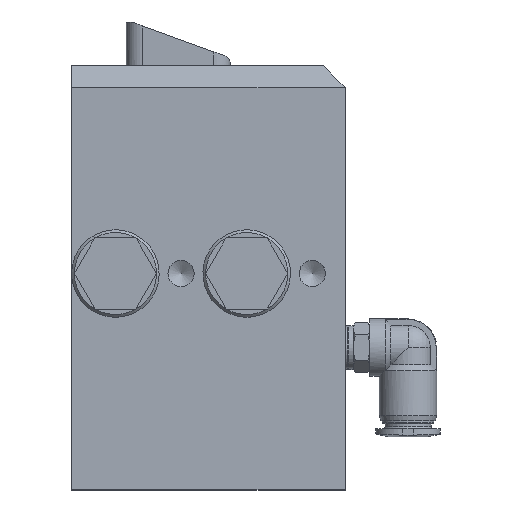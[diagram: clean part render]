
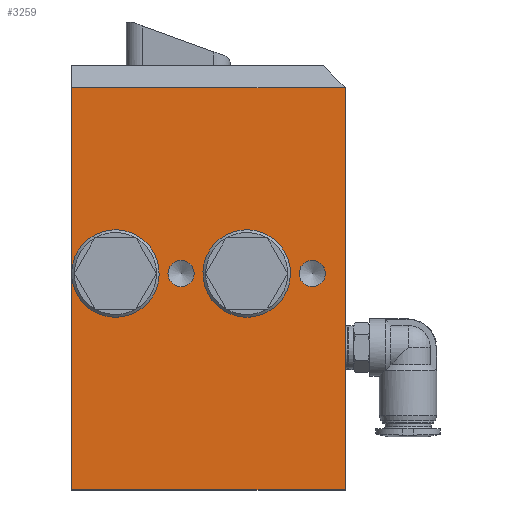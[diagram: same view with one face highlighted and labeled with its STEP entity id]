
A CAD part, top view. The second image highlights one B-rep face of the part: STEP entity #3259.
In plain terms, the highlighted planar face has unit normal (0, 0, 1).
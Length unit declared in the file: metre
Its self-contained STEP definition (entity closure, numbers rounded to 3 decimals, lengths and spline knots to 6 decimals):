
#58 = CARTESIAN_POINT ( 'NONE',  ( 0.0261, 0., 0.021 ) ) ;
#62 = EDGE_CURVE ( 'NONE', #5124, #5124, #7362, .T. ) ;
#371 = AXIS2_PLACEMENT_3D ( 'NONE', #9965, #5873, #11290 ) ;
#763 = EDGE_CURVE ( 'NONE', #9822, #12820, #1626, .T. ) ;
#995 = AXIS2_PLACEMENT_3D ( 'NONE', #11703, #11688, #11686 ) ;
#1030 = VECTOR ( 'NONE', #6518, 1. ) ;
#1626 = LINE ( 'NONE', #6575, #1030 ) ;
#1704 = ORIENTED_EDGE ( 'NONE', *, *, #763, .T. ) ;
#1993 = DIRECTION ( 'NONE',  ( 1., 0., 0. ) ) ;
#2046 = AXIS2_PLACEMENT_3D ( 'NONE', #10106, #12530, #1993 ) ;
#2714 = CARTESIAN_POINT ( 'NONE',  ( 0.0124, 0., 0.021 ) ) ;
#2860 = CIRCLE ( 'NONE', #2046, 0.0041 ) ;
#3259 = ADVANCED_FACE ( 'NONE', ( #9197, #7814, #9208, #9831, #9366 ), #16827, .F. ) ;
#3541 = EDGE_CURVE ( 'NONE', #12528, #12629, #15594, .T. ) ;
#3791 = ORIENTED_EDGE ( 'NONE', *, *, #13761, .T. ) ;
#3800 = DIRECTION ( 'NONE',  ( 1., 0., 0. ) ) ;
#3824 = CARTESIAN_POINT ( 'NONE',  ( 0.0021, 0., 0.021 ) ) ;
#3952 = VECTOR ( 'NONE', #3800, 1. ) ;
#4116 = LINE ( 'NONE', #12852, #3952 ) ;
#4633 = VECTOR ( 'NONE', #8877, 1. ) ;
#5124 = VERTEX_POINT ( 'NONE', #3824 ) ;
#5532 = EDGE_CURVE ( 'NONE', #13721, #13721, #11279, .T. ) ;
#5873 = DIRECTION ( 'NONE',  ( 0., 0., 1. ) ) ;
#6485 = EDGE_CURVE ( 'NONE', #14307, #14307, #2860, .T. ) ;
#6518 = DIRECTION ( 'NONE',  ( 0., 1., 0. ) ) ;
#6575 = CARTESIAN_POINT ( 'NONE',  ( 0.04, -0.0395, 0.021 ) ) ;
#6672 = ORIENTED_EDGE ( 'NONE', *, *, #9398, .F. ) ;
#7203 = EDGE_LOOP ( 'NONE', ( #13515 ) ) ;
#7362 = CIRCLE ( 'NONE', #995, 0.0041 ) ;
#7476 = DIRECTION ( 'NONE',  ( 1., 0., 0. ) ) ;
#7814 = FACE_BOUND ( 'NONE', #7203, .T. ) ;
#7894 = CARTESIAN_POINT ( 'NONE',  ( 0.04, 0.034, 0.021 ) ) ;
#7983 = CARTESIAN_POINT ( 'NONE',  ( 0.04, -0.0395, 0.021 ) ) ;
#8043 = ORIENTED_EDGE ( 'NONE', *, *, #8176, .T. ) ;
#8090 = EDGE_LOOP ( 'NONE', ( #6672 ) ) ;
#8176 = EDGE_CURVE ( 'NONE', #12820, #12528, #15547, .T. ) ;
#8276 = CARTESIAN_POINT ( 'NONE',  ( -0.01, -0.0395, 0.021 ) ) ;
#8877 = DIRECTION ( 'NONE',  ( -1., 0., 0. ) ) ;
#8915 = CARTESIAN_POINT ( 'NONE',  ( -0.01, 0.034, 0.021 ) ) ;
#8980 = DIRECTION ( 'NONE',  ( 0., -1., 0. ) ) ;
#9039 = CARTESIAN_POINT ( 'NONE',  ( -0.01, -0.0395, 0.021 ) ) ;
#9089 = EDGE_LOOP ( 'NONE', ( #14729 ) ) ;
#9197 = FACE_BOUND ( 'NONE', #8090, .T. ) ;
#9208 = FACE_BOUND ( 'NONE', #14188, .T. ) ;
#9366 = FACE_OUTER_BOUND ( 'NONE', #13187, .T. ) ;
#9398 = EDGE_CURVE ( 'NONE', #11088, #11088, #11487, .T. ) ;
#9822 = VERTEX_POINT ( 'NONE', #7983 ) ;
#9831 = FACE_BOUND ( 'NONE', #9089, .T. ) ;
#9965 = CARTESIAN_POINT ( 'NONE',  ( 0.034, 0., 0.021 ) ) ;
#10106 = CARTESIAN_POINT ( 'NONE',  ( 0.022, 0., 0.021 ) ) ;
#10838 = AXIS2_PLACEMENT_3D ( 'NONE', #14560, #14768, #12799 ) ;
#11088 = VERTEX_POINT ( 'NONE', #2714 ) ;
#11188 = CARTESIAN_POINT ( 'NONE',  ( 0.01, 0., 0.021 ) ) ;
#11279 = CIRCLE ( 'NONE', #371, 0.0024 ) ;
#11290 = DIRECTION ( 'NONE',  ( 1., 0., 0. ) ) ;
#11487 = CIRCLE ( 'NONE', #13496, 0.0024 ) ;
#11686 = DIRECTION ( 'NONE',  ( 1., 0., 0. ) ) ;
#11688 = DIRECTION ( 'NONE',  ( 0., 0., 1. ) ) ;
#11703 = CARTESIAN_POINT ( 'NONE',  ( -0.002, 0., 0.021 ) ) ;
#11765 = ORIENTED_EDGE ( 'NONE', *, *, #3541, .T. ) ;
#12173 = DIRECTION ( 'NONE',  ( 0., 0., 1. ) ) ;
#12528 = VERTEX_POINT ( 'NONE', #15532 ) ;
#12530 = DIRECTION ( 'NONE',  ( 0., 0., 1. ) ) ;
#12629 = VERTEX_POINT ( 'NONE', #8276 ) ;
#12799 = DIRECTION ( 'NONE',  ( -1., 0., 0. ) ) ;
#12820 = VERTEX_POINT ( 'NONE', #7894 ) ;
#12852 = CARTESIAN_POINT ( 'NONE',  ( -0.01, -0.0395, 0.021 ) ) ;
#13187 = EDGE_LOOP ( 'NONE', ( #1704, #8043, #11765, #3791 ) ) ;
#13496 = AXIS2_PLACEMENT_3D ( 'NONE', #11188, #12173, #7476 ) ;
#13515 = ORIENTED_EDGE ( 'NONE', *, *, #5532, .F. ) ;
#13721 = VERTEX_POINT ( 'NONE', #15616 ) ;
#13761 = EDGE_CURVE ( 'NONE', #12629, #9822, #4116, .T. ) ;
#14188 = EDGE_LOOP ( 'NONE', ( #15191 ) ) ;
#14307 = VERTEX_POINT ( 'NONE', #58 ) ;
#14560 = CARTESIAN_POINT ( 'NONE',  ( -0.01, 0.038, 0.021 ) ) ;
#14729 = ORIENTED_EDGE ( 'NONE', *, *, #62, .F. ) ;
#14768 = DIRECTION ( 'NONE',  ( 0., 0., -1. ) ) ;
#15191 = ORIENTED_EDGE ( 'NONE', *, *, #6485, .F. ) ;
#15411 = VECTOR ( 'NONE', #8980, 1. ) ;
#15532 = CARTESIAN_POINT ( 'NONE',  ( -0.01, 0.034, 0.021 ) ) ;
#15547 = LINE ( 'NONE', #8915, #4633 ) ;
#15594 = LINE ( 'NONE', #9039, #15411 ) ;
#15616 = CARTESIAN_POINT ( 'NONE',  ( 0.0364, 0., 0.021 ) ) ;
#16827 = PLANE ( 'NONE',  #10838 ) ;
